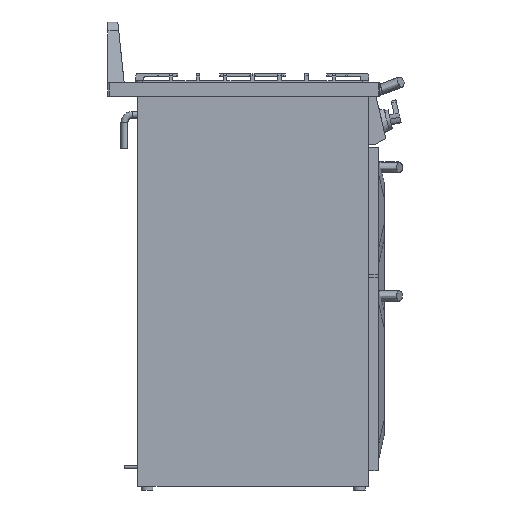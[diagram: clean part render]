
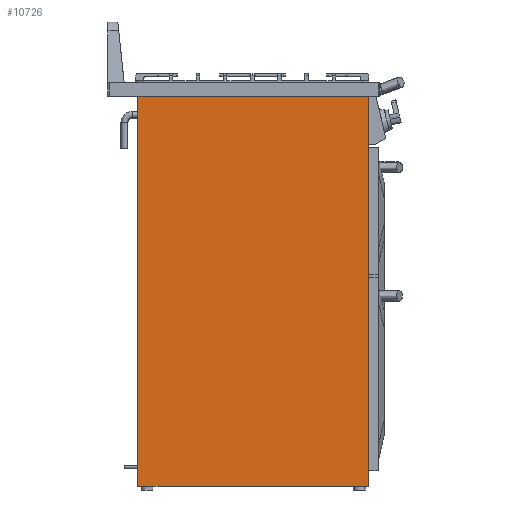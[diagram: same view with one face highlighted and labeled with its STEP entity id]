
A CAD part, left-side view. The second image highlights one B-rep face of the part: STEP entity #10726.
In plain terms, the highlighted planar face has unit normal (-1, 0, 0).
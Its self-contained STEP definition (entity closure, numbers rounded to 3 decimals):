
#3035=LINE('',#54666,#5766);
#3039=LINE('',#54683,#5770);
#3042=LINE('',#54693,#5773);
#3045=LINE('',#54699,#5776);
#5766=VECTOR('',#39012,1.);
#5770=VECTOR('',#39026,1.);
#5773=VECTOR('',#39035,1.);
#5776=VECTOR('',#39040,1.);
#7621=PLANE('',#32465);
#9054=FACE_OUTER_BOUND('',#13296,.T.);
#10726=ADVANCED_FACE('',(#9054),#7621,.F.);
#13296=EDGE_LOOP('',(#20261,#20262,#20263,#20264));
#20261=ORIENTED_EDGE('',*,*,#28344,.F.);
#20262=ORIENTED_EDGE('',*,*,#28360,.F.);
#20263=ORIENTED_EDGE('',*,*,#28357,.F.);
#20264=ORIENTED_EDGE('',*,*,#28352,.F.);
#24410=VERTEX_POINT('',#54667);
#24411=VERTEX_POINT('',#54668);
#24418=VERTEX_POINT('',#54684);
#24422=VERTEX_POINT('',#54694);
#28344=EDGE_CURVE('',#24410,#24411,#3035,.T.);
#28352=EDGE_CURVE('',#24411,#24418,#3039,.T.);
#28357=EDGE_CURVE('',#24418,#24422,#3042,.T.);
#28360=EDGE_CURVE('',#24422,#24410,#3045,.T.);
#32465=AXIS2_PLACEMENT_3D('',#54703,#39046,#39047);
#39012=DIRECTION('',(0.,0.,-1.));
#39026=DIRECTION('',(0.,1.,0.));
#39035=DIRECTION('',(0.,0.,1.));
#39040=DIRECTION('',(0.,-1.,0.));
#39046=DIRECTION('',(1.,0.,0.));
#39047=DIRECTION('',(0.,1.,0.));
#54666=CARTESIAN_POINT('',(2329.202,-219.878,14.104));
#54667=CARTESIAN_POINT('',(2329.202,-219.878,14.104));
#54668=CARTESIAN_POINT('',(2329.202,-219.878,-847.896));
#54683=CARTESIAN_POINT('',(2329.202,-219.878,-847.896));
#54684=CARTESIAN_POINT('',(2329.202,289.122,-847.896));
#54693=CARTESIAN_POINT('',(2329.202,289.122,-847.896));
#54694=CARTESIAN_POINT('',(2329.202,289.122,14.104));
#54699=CARTESIAN_POINT('',(2329.202,289.122,14.104));
#54703=CARTESIAN_POINT('',(2329.202,-219.878,-847.896));
